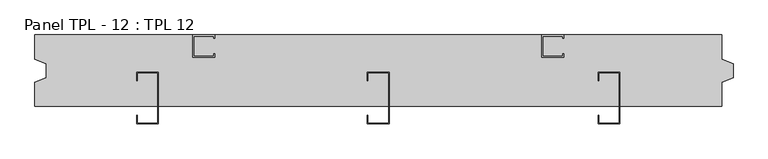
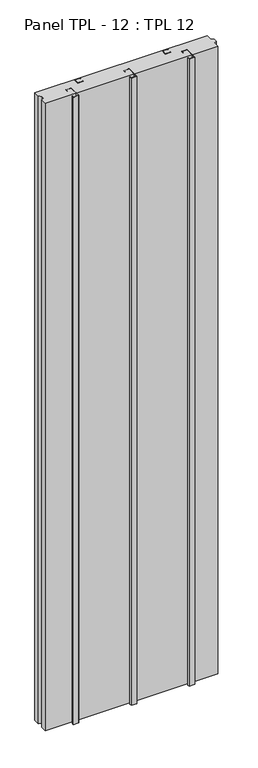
"""IFC4 building model written with IfcOpenShell, lengths in millimetres: plate geometry, Panel TPL - 12 : TPL 12."""

from ifc_helpers import new_model, si_unit, origin, origin_with_axes, place, context, project, spatial, polyline, outline, extrude, source, transform, mapped, element, save


def panel_tpl_12_tpl_12_75c060e7(model_context):
    return source(origin(), model_context, "Body", "SweptSolid", [
        extrude(outline(polyline([(-324.5000002, 62.5), (-285.5000002, 62.5), (-285.5000002, 56.5), (-287.5000002, 56.5), (-287.5000002, 60.5), (-322.5000002, 60.5), (-322.5000002, 25.5), (-287.5000002, 25.5), (-287.5000002, 29.5), (-285.5000002, 29.5), (-285.5000002, 23.5), (-324.5000002, 23.5), (-324.5000002, 62.5)])), origin_with_axes(), (0.0, 0.0, 1.0), 4618.8021535),
        extrude(outline(polyline([(285.5000002, 62.5), (324.5000002, 62.5), (324.5000002, 56.5), (322.5000002, 56.5), (322.5000002, 60.5), (287.5000002, 60.5), (287.5000002, 25.5), (322.5000002, 25.5), (322.5000002, 29.5), (324.5000002, 29.5), (324.5000002, 23.5), (285.5000002, 23.5), (285.5000002, 62.5)])), origin_with_axes(), (0.0, 0.0, 1.0), 4618.8021535),
        extrude(outline(polyline([(-19.0, -2.5), (19.0, -2.5), (19.0, -92.5), (-19.0, -92.5), (-19.0, -77.5), (-18.15, -77.5), (-18.15, -91.65), (18.15, -91.65), (18.15, -3.35), (-18.15, -3.35), (-18.15, -17.5), (-19.0, -17.5), (-19.0, -2.5)])), origin_with_axes(), (0.0, 0.0, 1.0), 4618.8021535),
        extrude(outline(polyline([(-422.3000002, -2.5), (-384.3000002, -2.5), (-384.3000002, -92.5), (-422.3000002, -92.5), (-422.3000002, -77.5), (-421.4500002, -77.5), (-421.4500002, -91.65), (-385.1500002, -91.65), (-385.1500002, -3.35), (-421.4500002, -3.35), (-421.4500002, -17.5), (-422.3000002, -17.5), (-422.3000002, -2.5)])), origin_with_axes(), (0.0, 0.0, 1.0), 4618.8021535),
        extrude(outline(polyline([(384.3000002, -2.5), (422.3000002, -2.5), (422.3000002, -92.5), (384.3000002, -92.5), (384.3000002, -77.5), (385.1500002, -77.5), (385.1500002, -91.65), (421.4500002, -91.65), (421.4500002, -3.35), (385.1500002, -3.35), (385.1500002, -17.5), (384.3000002, -17.5), (384.3000002, -2.5)])), origin_with_axes(), (0.0, 0.0, 1.0), 4618.8021535),
        extrude(outline(polyline([(-600.0000002, 62.5), (600.0000002, 62.5), (600.0000002, 20.0010038), (620.0000002, 12.5), (620.0000002, -12.5), (600.0000002, -20.0010038), (600.0000002, -62.5), (-600.0000002, -62.5), (-600.0000002, -20.0010038), (-580.0000002, -12.5), (-580.0000002, 12.5), (-600.0000002, 20.0010038), (-600.0000002, 62.5)])), origin_with_axes(), (0.0, 0.0, 1.0), 4618.8021535),
    ])


if __name__ == "__main__":
    model = new_model("IFC4")
    model_context = context("Model", 3, world=origin())
    ifc_project = project(units=[si_unit("LENGTHUNIT", "METRE", prefix="MILLI")], contexts=[model_context])
    site = spatial("IfcSite", under=ifc_project)
    building = spatial("IfcBuilding", under=site)
    placement = place(None, origin())
    panel_tpl_12_tpl_12_shape = panel_tpl_12_tpl_12_75c060e7(model_context)
    element("IfcPlate", 1, ObjectType="Panel TPL - 12 : TPL 12", at=placement, inside=building, context=model_context, shape_type="MappedRepresentation", body=[
        mapped(panel_tpl_12_tpl_12_shape, transform((0.0, 0.0, 0.0), x_axis=(1.0, 0.0, 0.0), y_axis=(0.0, 1.0, 0.0), z_axis=(0.0, 0.0, 1.0))),
    ])
    save(model, "model.ifc")
